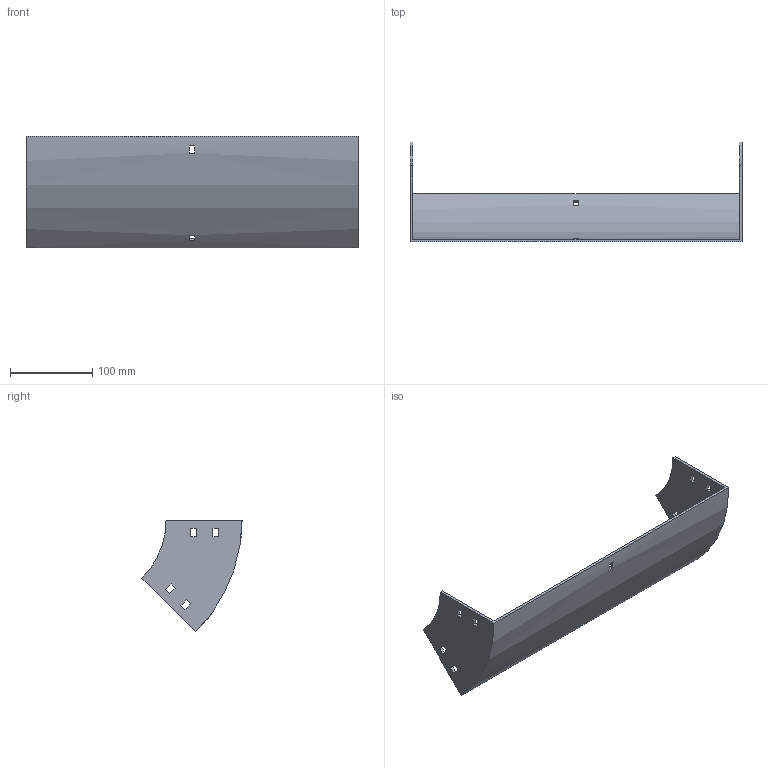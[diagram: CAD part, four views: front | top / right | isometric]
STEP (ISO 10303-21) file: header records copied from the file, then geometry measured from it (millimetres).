
FILE_DESCRIPTION (( 'STEP AP214' ), '1' );
FILE_NAME ('31B1I400.step', '2025-02-21T09:48:18', ( '' ), ( '' ), 'SwSTEP 2.0', 'SolidWorks 2023', '' );
FILE_SCHEMA (( 'AUTOMOTIVE_DESIGN' ));
Length unit declared in the file: millimetre
Products named in the file (1): 31B1I400
Bounding box: 404 x 121.79 x 136.12 mm (x, y, z)
Volume: 280171.2 mm3; surface area: 165901.1 mm2
Topology: 1 solids, 1 shells, 50 faces, 144 edges, 96 vertices
Faces by surface type: plane 46, cylinder 4
Entity records: 1687 total; most frequent: CARTESIAN_POINT 291, ORIENTED_EDGE 288, DIRECTION 262, EDGE_CURVE 144, LINE 128, VECTOR 128, VERTEX_POINT 96, EDGE_LOOP 70
